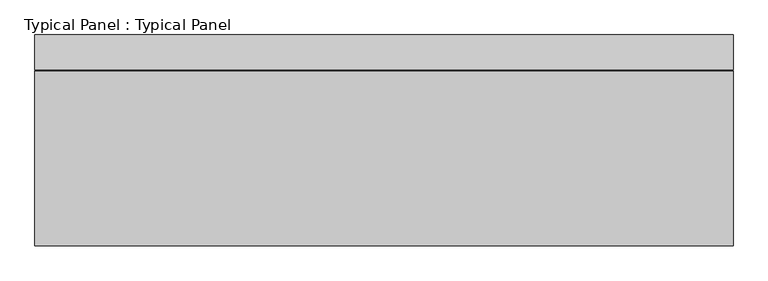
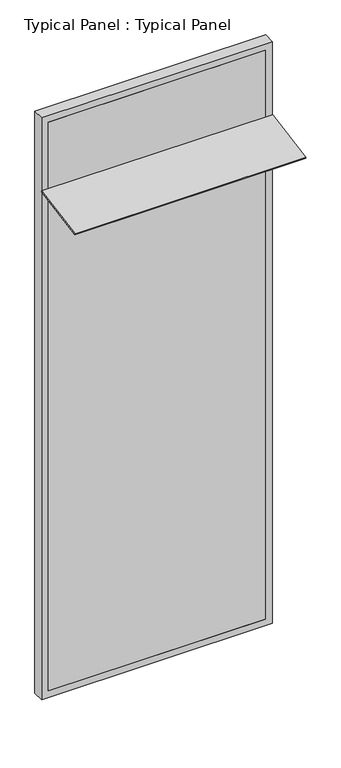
"""IFC4 building model written with IfcOpenShell, lengths in millimetres: plate geometry, Typical Panel : Typical Panel."""

from ifc_helpers import new_model, si_unit, frame, origin, place, context, project, spatial, polyline, outline, extrude, source, transform, mapped, element, save


def typical_panel_typical_panel_5595ccfb(model_context):
    return source(origin(), model_context, "Body", "SweptSolid", [
        extrude(outline(polyline([(0.0, -380.0000001), (0.0, 0.0), (1500.00002, 0.0), (1500.00002, -380.0000001), (0.0, -380.0000001)])), frame((750.00001, -377.4904644, 3424.165615), z_axis=(0.0, -0.17364817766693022, 0.9848077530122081), x_axis=(-1.0, 0.0, 0.0)), (0.0, 0.0, 1.0), 10.0),
        extrude(outline(polyline([(0.0, -750.00001), (0.0, 750.00001), (4000.0, 750.00001), (4000.0, -750.00001), (0.0, -750.00001)]), holes=[polyline([(45.0, 705.00001), (45.0, -705.00001), (3955.0, -705.00001), (3955.0, 705.00001), (45.0, 705.00001)])]), frame((0.0, -1.5797986, 0.0), z_axis=(0.0, 1.0, 0.0), x_axis=(0.0, 0.0, 1.0)), (0.0, 0.0, 1.0), 75.0),
        extrude(outline(polyline([(705.00001, -1.5797986), (-705.00001, -1.5797986), (-705.00001, 13.4202014), (705.00001, 13.4202014), (705.00001, -1.5797986)])), frame((0.0, 0.0, 45.0), z_axis=(0.0, 0.0, 1.0), x_axis=(1.0, 0.0, 0.0)), (0.0, 0.0, 1.0), 3910.0),
    ])


if __name__ == "__main__":
    model = new_model("IFC4")
    model_context = context("Model", 3, world=origin())
    ifc_project = project(units=[si_unit("LENGTHUNIT", "METRE", prefix="MILLI")], contexts=[model_context])
    site = spatial("IfcSite", under=ifc_project)
    building = spatial("IfcBuilding", under=site)
    placement = place(None, origin())
    typical_panel_typical_panel_shape = typical_panel_typical_panel_5595ccfb(model_context)
    element("IfcPlate", 1, ObjectType="Typical Panel : Typical Panel", at=placement, inside=building, context=model_context, shape_type="MappedRepresentation", body=[
        mapped(typical_panel_typical_panel_shape, transform((0.0, 0.0, 0.0), x_axis=(1.0, 0.0, 0.0), y_axis=(0.0, 1.0, 0.0), z_axis=(0.0, 0.0, 1.0))),
    ])
    save(model, "model.ifc")
